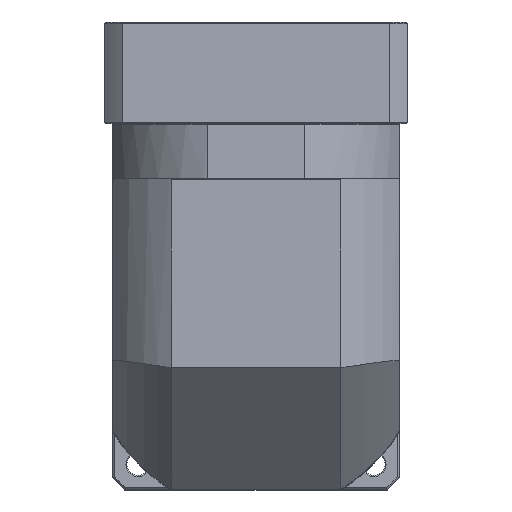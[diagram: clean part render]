
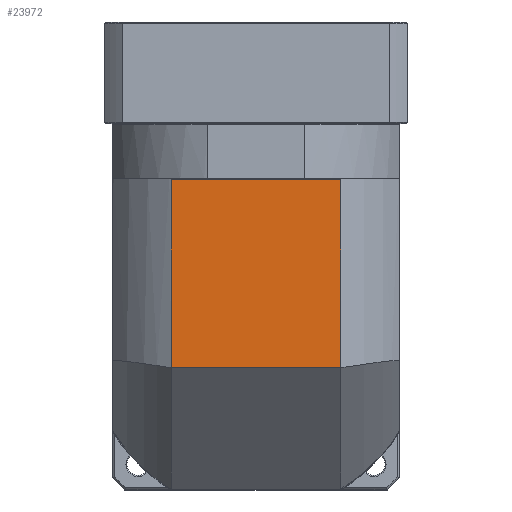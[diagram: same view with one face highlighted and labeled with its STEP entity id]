
A CAD part, top view. The second image highlights one B-rep face of the part: STEP entity #23972.
In plain terms, the highlighted planar face has unit normal (0, 0, 1).
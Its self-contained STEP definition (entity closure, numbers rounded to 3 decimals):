
#958 = ORIENTED_EDGE ( 'NONE', *, *, #109903, .F. ) ;
#2265 = FACE_OUTER_BOUND ( 'NONE', #45252, .T. ) ;
#12460 = CARTESIAN_POINT ( 'NONE',  ( -213.742, 171.476, 157.857 ) ) ;
#19380 = VERTEX_POINT ( 'NONE', #12460 ) ;
#20521 = EDGE_CURVE ( 'NONE', #19380, #98518, #82211, .T. ) ;
#20676 = CARTESIAN_POINT ( 'NONE',  ( -213.742, 78.476, 157.857 ) ) ;
#20750 = CARTESIAN_POINT ( 'NONE',  ( -242.727, 171.476, 157.857 ) ) ;
#20880 = CARTESIAN_POINT ( 'NONE',  ( -213.742, -174.628, 157.857 ) ) ;
#21738 = CARTESIAN_POINT ( 'NONE',  ( -129.712, 171.476, 157.857 ) ) ;
#23972 = ADVANCED_FACE ( 'NONE', ( #2265 ), #26178, .F. ) ;
#26178 = PLANE ( 'NONE',  #132398 ) ;
#27309 = ORIENTED_EDGE ( 'NONE', *, *, #51162, .F. ) ;
#27657 = CARTESIAN_POINT ( 'NONE',  ( -129.712, -174.628, 157.857 ) ) ;
#37248 = DIRECTION ( 'NONE',  ( 0., -1., 0. ) ) ;
#38773 = CARTESIAN_POINT ( 'NONE',  ( -242.727, 78.476, 157.857 ) ) ;
#42201 = DIRECTION ( 'NONE',  ( 0., 1., 0. ) ) ;
#42523 = DIRECTION ( 'NONE',  ( 1., 0., 0. ) ) ;
#43924 = VECTOR ( 'NONE', #37248, 1000. ) ;
#45252 = EDGE_LOOP ( 'NONE', ( #958, #45568, #103080, #27309 ) ) ;
#45568 = ORIENTED_EDGE ( 'NONE', *, *, #79830, .F. ) ;
#48729 = DIRECTION ( 'NONE',  ( -1., 0., 0. ) ) ;
#51162 = EDGE_CURVE ( 'NONE', #132502, #19380, #53375, .T. ) ;
#53375 = LINE ( 'NONE', #20880, #118133 ) ;
#72499 = VECTOR ( 'NONE', #42523, 1000. ) ;
#77830 = DIRECTION ( 'NONE',  ( 0., 0., -1. ) ) ;
#79830 = EDGE_CURVE ( 'NONE', #98518, #110200, #84383, .T. ) ;
#82211 = LINE ( 'NONE', #20750, #72499 ) ;
#83907 = CARTESIAN_POINT ( 'NONE',  ( -129.712, 78.476, 157.857 ) ) ;
#84383 = LINE ( 'NONE', #27657, #43924 ) ;
#97271 = DIRECTION ( 'NONE',  ( 1., 0., 0. ) ) ;
#98518 = VERTEX_POINT ( 'NONE', #21738 ) ;
#98592 = CARTESIAN_POINT ( 'NONE',  ( -242.727, 171.976, 157.857 ) ) ;
#103080 = ORIENTED_EDGE ( 'NONE', *, *, #20521, .F. ) ;
#108258 = VECTOR ( 'NONE', #48729, 1000. ) ;
#109903 = EDGE_CURVE ( 'NONE', #110200, #132502, #129268, .T. ) ;
#110200 = VERTEX_POINT ( 'NONE', #83907 ) ;
#118133 = VECTOR ( 'NONE', #42201, 1000. ) ;
#129268 = LINE ( 'NONE', #38773, #108258 ) ;
#132398 = AXIS2_PLACEMENT_3D ( 'NONE', #98592, #77830, #97271 ) ;
#132502 = VERTEX_POINT ( 'NONE', #20676 ) ;
